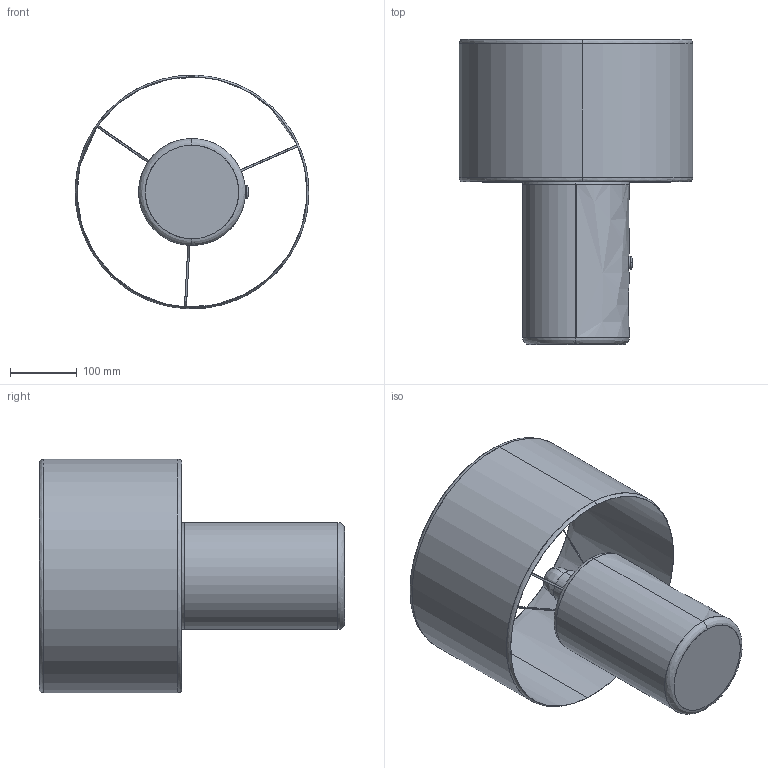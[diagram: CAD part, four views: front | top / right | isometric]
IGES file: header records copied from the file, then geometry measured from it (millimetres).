
Start section: SolidWorks IGES file using analytic representation for surfaces
Global section: file name: C:\Users\Maripaz\Desktop\S1109\s1109.IGS; native system: SolidWorks 2017; preprocessor: SolidWorks 2017; author: Maripaz; date: 190227.174315; units: millimetre
Bounding box: 349.88 x 456.94 x 349.54 mm (x, y, z)
Surface area: 654030.5 mm2 (no closed solid volume)
Topology: 0 solids, 0 shells, 74 faces, 1157 edges, 1157 vertices
Faces by surface type: bspline 58, revolution 16
